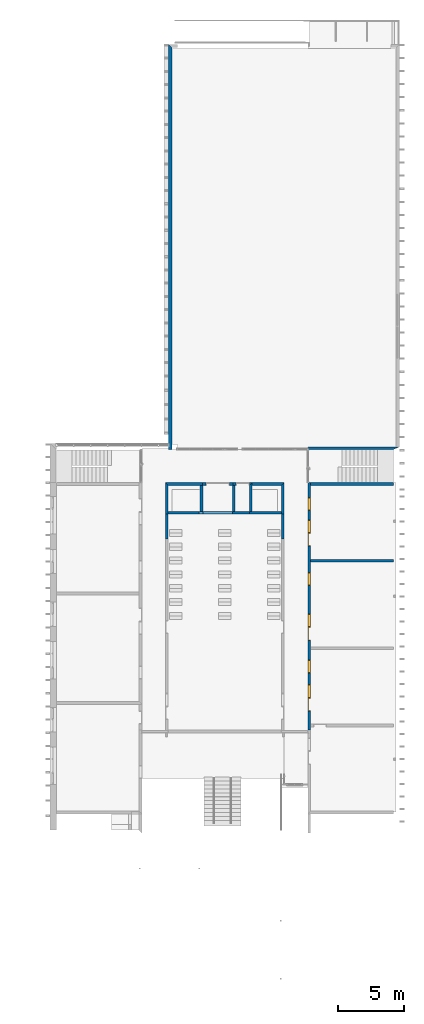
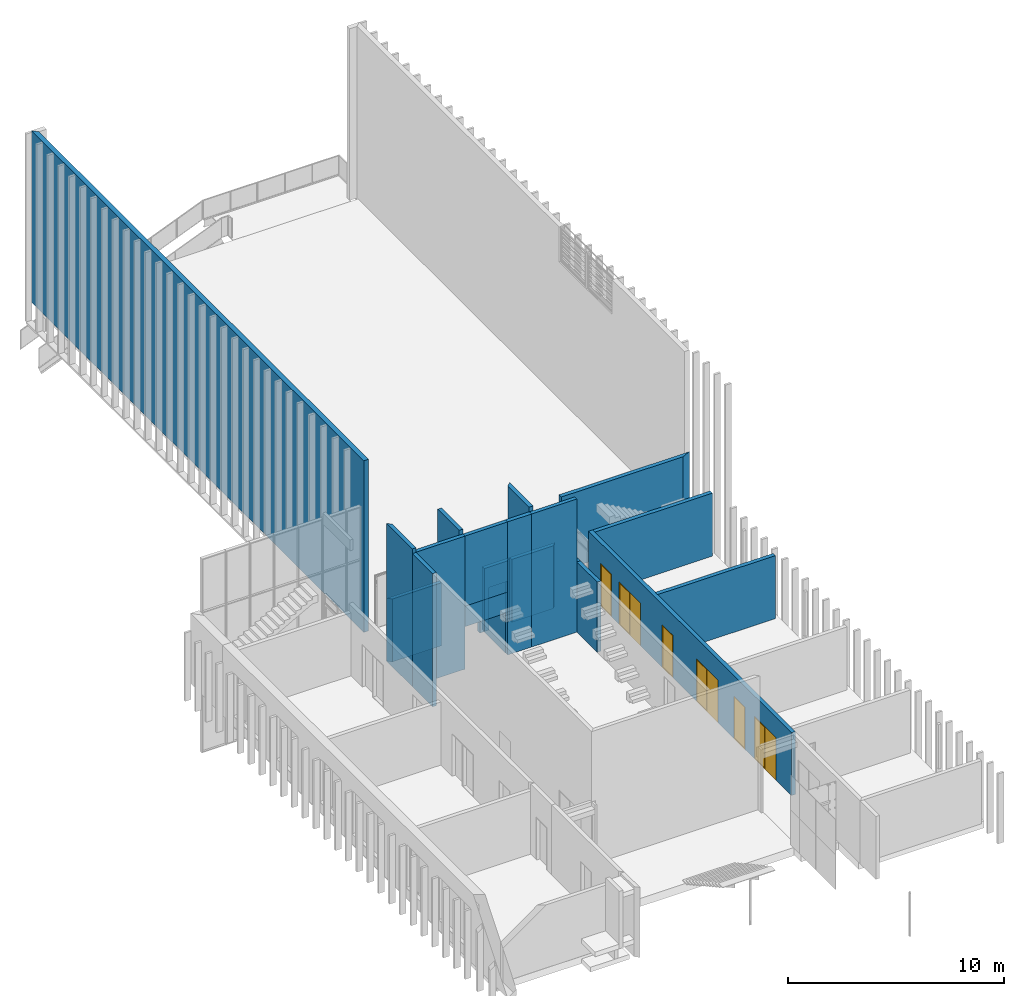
# One storey, part 13 of 62: 21 walls, 6 windows, 3 doors, 11 openings.
"""IFC2X3 building model written with IfcOpenShell, lengths in millimetres."""

from ifc_helpers import new_model, entity, si_unit, converted_unit, derived_unit, money_unit, direction, frame, origin_with_axes, origin_2d_with_axis, place, context, subcontext, project, spatial, polyline, rectangle, outline, extrude, open_shell, faceted_brep, surface_model, source, transform, mapped, material, layer, layer_set, layer_usage, type_object, element, fill, save


model = new_model("IFC2X3")

# Units and contexts
model_context = context("Model", 3, precision=0.01, world=origin_with_axes(), true_north=direction((0.0, 1.0)))
body_context = subcontext(model_context, "Body", "Model", "MODEL_VIEW")
ifc_project = project(units=[si_unit("LENGTHUNIT", "METRE", prefix="MILLI"), si_unit("AREAUNIT", "SQUARE_METRE"), si_unit("VOLUMEUNIT", "CUBIC_METRE"), converted_unit("PLANEANGLEUNIT", "DEGREE", entity("IfcPlaneAngleMeasure", 0.0174532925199), si_unit("PLANEANGLEUNIT", "RADIAN"), dimensions=[0, 0, 0, 0, 0, 0, 0]), si_unit("SOLIDANGLEUNIT", "STERADIAN"), money_unit("EUR"), converted_unit("TIMEUNIT", "Year", entity("IfcTimeMeasure", 31556926.0), si_unit("TIMEUNIT", "SECOND"), dimensions=[0, 0, 1, 0, 0, 0, 0]), si_unit("MASSUNIT", "GRAM", prefix="KILO"), si_unit("THERMODYNAMICTEMPERATUREUNIT", "DEGREE_CELSIUS"), si_unit("LUMINOUSINTENSITYUNIT", "LUMEN"), si_unit("ENERGYUNIT", "JOULE", prefix="MEGA"), derived_unit("THERMALCONDUCTANCEUNIT", [(si_unit("POWERUNIT", "WATT"), 1), (si_unit("LENGTHUNIT", "METRE"), -1), (si_unit("THERMODYNAMICTEMPERATUREUNIT", "KELVIN"), -1)]), derived_unit("SPECIFICHEATCAPACITYUNIT", [(si_unit("ENERGYUNIT", "JOULE"), 1), (si_unit("MASSUNIT", "GRAM", prefix="KILO"), -1), (si_unit("THERMODYNAMICTEMPERATUREUNIT", "KELVIN"), -1)]), derived_unit("MASSDENSITYUNIT", [(si_unit("MASSUNIT", "GRAM", prefix="KILO"), 1), (si_unit("VOLUMEUNIT", "CUBIC_METRE"), -1)])], contexts=[model_context])

# Site, building, storey
site_placement = place(None, origin_with_axes())
site = spatial("IfcSite", under=ifc_project, at=site_placement, Name="Puškini 31, Narva", CompositionType="ELEMENT")
building_placement = place(site_placement, origin_with_axes())
building = spatial("IfcBuilding", under=site, at=building_placement, Name="Narva Riigigümnaasium", CompositionType="ELEMENT")
storey_placement = place(building_placement, frame((0.0, 0.0, 660.0), z_axis=(0.0, 0.0, 1.0), x_axis=(1.0, 0.0, 0.0)))
storey = spatial("IfcBuildingStorey", under=building, at=storey_placement, Name="2.korrus +0.66", CompositionType="ELEMENT", Elevation=660.0)

# Wall
ifc_material_1 = material(Name="Betoon element")
ifc_layer_1 = layer(ifc_material_1, 200.0, ventilated="UNKNOWN")
ifc_layer_set_1 = layer_set([ifc_layer_1], Name="G-SS-01")
ifc_layer_usage_1 = layer_usage(ifc_layer_set_1, "AXIS2", "NEGATIVE", 0.0)
wall_type_1 = type_object("IfcWallType", Name="G-SS-01 200", PredefinedType="NOTDEFINED")
wall_1_placement = place(storey_placement, frame((39229.9999995, 219100.000006, 3555.0), z_axis=(0.0, 0.0, 1.0), x_axis=(1.0, 0.0, 0.0)))
element("IfcWallStandardCase", 1, at=wall_1_placement, inside=storey, type_object=wall_type_1, material=ifc_layer_usage_1, Name="Sisesein", context=body_context, shape_type="SweptSolid", body=[
    extrude(outline(polyline([(0.0, -200.0), (2630.00000047, -200.0), (2630.00000047, 0.0), (0.0, 0.0), (0.0, -200.0)])), origin_with_axes(), (0.0, 0.0, 1.0), 3965.0),
])

# Wall, opening
wall_2_placement = place(storey_placement, frame((41809.9999994, 221279.999999, 0.0), z_axis=(0.0, 0.0, 1.0), x_axis=(1.0, 0.0, 0.0)))
wall_2 = element("IfcWallStandardCase", 2, at=wall_2_placement, inside=storey, type_object=wall_type_1, material=ifc_layer_usage_1, Name="Sisesein", context=body_context, shape_type="SweptSolid", body=[
    extrude(outline(polyline([(1.33582034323e-09, -200.0), (1255.00000065, -200.0), (1470.00000065, 0.0), (0.0, 0.0), (1.33582034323e-09, -200.0)])), origin_with_axes(), (0.0, 0.0, 1.0), 3555.0),
])
opening_1_placement = place(wall_2_placement, frame((752.220678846, -1.00328634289e-08, 0.0), z_axis=(0.0, 0.0, 1.0), x_axis=(1.0, 0.0, 0.0)))
element("IfcOpeningElement", 3, at=opening_1_placement, cuts=wall_2, Name="G-SU-079", context=body_context, shape_type="SweptSolid", body=[
    extrude(rectangle(XDim=1000.0, YDim=2400.0, at=origin_2d_with_axis()), frame((0.0, -200.0, 1200.0), z_axis=(0.0, 1.0, 0.0), x_axis=(1.0, 0.0, 0.0)), (0.0, 0.0, 1.0), 600.0),
])

# Walls
ifc_layer_usage_2 = layer_usage(ifc_layer_set_1, "AXIS2", "POSITIVE", 0.0)
wall_3_placement = place(storey_placement, frame((36699.9999995, 221279.999999, 0.0), z_axis=(0.0, 0.0, 1.0), x_axis=(0.0, -1.0, 0.0)))
element("IfcWallStandardCase", 4, at=wall_3_placement, inside=storey, type_object=wall_type_1, material=ifc_layer_usage_2, Name="Sisesein", context=body_context, shape_type="SweptSolid", body=[
    extrude(outline(polyline([(5.5734972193e-08, 0.0), (2389.99999313, 0.0), (2389.99999313, 200.0), (200.000000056, 200.0), (5.5734972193e-08, 0.0)])), origin_with_axes(), (0.0, 0.0, 1.0), 7785.0),
])
wall_4_placement = place(storey_placement, frame((36699.9999995, 219100.000006, 0.0), z_axis=(0.0, 0.0, 1.0), x_axis=(1.0, 0.0, 0.0)))
element("IfcWallStandardCase", 5, at=wall_4_placement, inside=storey, type_object=wall_type_1, material=ifc_layer_usage_1, Name="Sisesein", context=body_context, shape_type="SweptSolid", body=[
    extrude(outline(polyline([(200.0, -200.0), (2830.0, -200.0), (2830.0, 0.0), (200.0, 0.0), (200.0, -200.0)])), origin_with_axes(), (0.0, 0.0, 1.0), 7520.0),
])
wall_5_placement = place(storey_placement, frame((43080.0000001, 219100.000006, 0.0), z_axis=(0.0, 0.0, 1.0), x_axis=(1.0, 0.0, 0.0)))
element("IfcWallStandardCase", 6, at=wall_5_placement, inside=storey, type_object=wall_type_1, material=ifc_layer_usage_1, Name="Sisesein", context=body_context, shape_type="SweptSolid", body=[
    extrude(outline(polyline([(0.0, -200.0), (2420.0, -200.0), (2420.0, 0.0), (0.0, 0.0), (0.0, -200.0)])), origin_with_axes(), (0.0, 0.0, 1.0), 7520.0),
])
wall_6_placement = place(storey_placement, frame((45700.0000001, 221279.999999, 0.0), z_axis=(0.0, 0.0, 1.0), x_axis=(0.0, -1.0, 0.0)))
element("IfcWallStandardCase", 7, at=wall_6_placement, inside=storey, type_object=wall_type_1, material=ifc_layer_usage_1, Name="Sisesein", context=body_context, shape_type="SweptSolid", body=[
    extrude(outline(polyline([(199.999999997, -200.0), (2379.99999301, -200.0), (2379.99999301, 0.0), (0.0, 0.0), (199.999999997, -200.0)])), origin_with_axes(), (0.0, 0.0, 1.0), 3960.0),
])
wall_7_placement = place(storey_placement, frame((36699.9999995, 221279.999999, 0.0), z_axis=(0.0, 0.0, 1.0), x_axis=(1.0, 0.0, 0.0)))
element("IfcWallStandardCase", 8, at=wall_7_placement, inside=storey, type_object=wall_type_1, material=ifc_layer_usage_1, Name="Sisesein", context=body_context, shape_type="SweptSolid", body=[
    extrude(outline(polyline([(200.0, -200.0), (2820.0, -200.0), (2820.0, 0.0), (0.0, 0.0), (200.0, -200.0)])), origin_with_axes(), (0.0, 0.0, 1.0), 3555.0),
])
wall_8_placement = place(storey_placement, frame((43280.0000001, 221279.999999, 0.0), z_axis=(0.0, 0.0, 1.0), x_axis=(1.0, 0.0, 0.0)))
element("IfcWallStandardCase", 9, at=wall_8_placement, inside=storey, type_object=wall_type_1, material=ifc_layer_usage_1, Name="Sisesein", context=body_context, shape_type="SweptSolid", body=[
    extrude(outline(polyline([(2.98427949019e-09, -200.0), (2220.0, -200.0), (2420.0, 0.0), (0.0, 0.0), (2.98427949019e-09, -200.0)])), origin_with_axes(), (0.0, 0.0, 1.0), 3555.0),
])
wall_9_placement = place(storey_placement, frame((36699.9999995, 218890.000006, 0.0), z_axis=(0.0, 0.0, 1.0), x_axis=(0.0, -1.0, 0.0)))
element("IfcWallStandardCase", 10, at=wall_9_placement, inside=storey, type_object=wall_type_1, material=ifc_layer_usage_2, Name="Sisesein", context=body_context, shape_type="SweptSolid", body=[
    extrude(outline(polyline([(0.0, 0.0), (1871.06762891, 0.0), (1871.06762891, 200.0), (0.0, 200.0), (0.0, 0.0)])), origin_with_axes(), (0.0, 0.0, 1.0), 7520.0),
])
wall_10_placement = place(storey_placement, frame((45700.0000001, 218900.000006, 0.0), z_axis=(0.0, 0.0, 1.0), x_axis=(0.0, -1.0, 0.0)))
element("IfcWallStandardCase", 11, at=wall_10_placement, inside=storey, type_object=wall_type_1, material=ifc_layer_usage_1, Name="Sisesein", context=body_context, shape_type="SweptSolid", body=[
    extrude(outline(polyline([(0.0, -200.0), (1881.06762891, -200.0), (1881.06762891, 0.0), (0.0, 0.0), (0.0, -200.0)])), origin_with_axes(), (0.0, 0.0, 1.0), 3960.0),
])

# Wall, openings, windows, doors
ifc_material_2 = material(Name="siseviimistlus-seinad")
ifc_layer_2 = layer(ifc_material_2, 10.0, ventilated="UNKNOWN")
ifc_layer_set_2 = layer_set([ifc_layer_1, ifc_layer_2], Name="G-SS-01-02")
ifc_layer_usage_3 = layer_usage(ifc_layer_set_2, "AXIS2", "POSITIVE", 0.0)
wall_type_2 = type_object("IfcWallType", Name="G-SS-01-02 210", PredefinedType="NOTDEFINED")
wall_11_placement = place(storey_placement, frame((47499.9999936, 221279.999999, 0.0), z_axis=(0.0, 0.0, 1.0), x_axis=(0.0, -1.0, 0.0)))
wall_11 = element("IfcWallStandardCase", 12, at=wall_11_placement, inside=storey, type_object=wall_type_2, material=ifc_layer_usage_3, Name="Sisesein", context=body_context, shape_type="SweptSolid", body=[
    extrude(outline(polyline([(0.0, 0.0), (18769.9999864, 0.0), (18769.9999864, 210.0), (0.0, 210.0), (0.0, 0.0)])), origin_with_axes(), (0.0, 0.0, 1.0), 3555.0),
])
opening_2_placement = place(wall_11_placement, frame((15830.000007, 0.0, 0.0), z_axis=(0.0, 0.0, 1.0), x_axis=(1.0, 0.0, 0.0)))
opening_2 = element("IfcOpeningElement", 13, at=opening_2_placement, cuts=wall_11, Name="G-SA-1", context=body_context, shape_type="SweptSolid", body=[
    extrude(rectangle(XDim=1000.0, YDim=2400.0, at=origin_2d_with_axis()), frame((0.0, 210.0, 1200.0), z_axis=(0.0, -1.0, 0.0), x_axis=(-1.0, 0.0, 0.0)), (0.0, 0.0, 1.0), 630.0),
])
opening_3_placement = place(wall_11_placement, frame((10460.0000076, 0.0, 0.0), z_axis=(0.0, 0.0, 1.0), x_axis=(1.0, 0.0, 0.0)))
opening_3 = element("IfcOpeningElement", 14, at=opening_3_placement, cuts=wall_11, Name="G-SA-1", context=body_context, shape_type="SweptSolid", body=[
    extrude(rectangle(XDim=1000.0, YDim=2400.0, at=origin_2d_with_axis()), frame((0.0, 210.0, 1200.0), z_axis=(0.0, 1.0, 0.0), x_axis=(1.0, 0.0, 0.0)), (0.0, 0.0, -1.0), 630.0),
])
opening_4_placement = place(wall_11_placement, frame((7304.99999823, 0.0, 0.0), z_axis=(0.0, 0.0, 1.0), x_axis=(1.0, 0.0, 0.0)))
opening_4 = element("IfcOpeningElement", 15, at=opening_4_placement, cuts=wall_11, Name="G-SA-1", context=body_context, shape_type="SweptSolid", body=[
    extrude(rectangle(XDim=1000.0, YDim=2400.0, at=origin_2d_with_axis()), frame((0.0, 210.0, 1200.0), z_axis=(0.0, 1.0, 0.0), x_axis=(1.0, 0.0, 0.0)), (0.0, 0.0, -1.0), 630.0),
])
opening_5_placement = place(wall_11_placement, frame((13954.9999982, 0.0, 0.0), z_axis=(0.0, 0.0, 1.0), x_axis=(1.0, 0.0, 0.0)))
opening_5 = element("IfcOpeningElement", 16, at=opening_5_placement, cuts=wall_11, Name="G-SA-1", context=body_context, shape_type="SweptSolid", body=[
    extrude(rectangle(XDim=1000.0, YDim=2400.0, at=origin_2d_with_axis()), frame((0.0, 210.0, 1200.0), z_axis=(0.0, -1.0, 0.0), x_axis=(-1.0, 0.0, 0.0)), (0.0, 0.0, 1.0), 630.0),
])
opening_6_placement = place(wall_11_placement, frame((1604.99999823, 0.0, 0.0), z_axis=(0.0, 0.0, 1.0), x_axis=(1.0, 0.0, 0.0)))
opening_6 = element("IfcOpeningElement", 17, at=opening_6_placement, cuts=wall_11, Name="G-SA-1", context=body_context, shape_type="SweptSolid", body=[
    extrude(rectangle(XDim=1000.0, YDim=2400.0, at=origin_2d_with_axis()), frame((0.0, 210.0, 1200.0), z_axis=(0.0, -1.0, 0.0), x_axis=(-1.0, 0.0, 0.0)), (0.0, 0.0, 1.0), 630.0),
])
opening_7_placement = place(wall_11_placement, frame((3320.00000068, 0.0, 0.0), z_axis=(0.0, 0.0, 1.0), x_axis=(1.0, 0.0, 0.0)))
opening_7 = element("IfcOpeningElement", 18, at=opening_7_placement, cuts=wall_11, Name="G-SA-1", context=body_context, shape_type="SweptSolid", body=[
    extrude(rectangle(XDim=1000.0, YDim=2400.0, at=origin_2d_with_axis()), frame((0.0, 210.0, 1200.0), z_axis=(0.0, -1.0, 0.0), x_axis=(-1.0, 0.0, 0.0)), (0.0, 0.0, 1.0), 630.0),
])
opening_8_placement = place(wall_11_placement, frame((11460.0000076, 0.0, 0.0), z_axis=(0.0, 0.0, 1.0), x_axis=(1.0, 0.0, 0.0)))
opening_8 = element("IfcOpeningElement", 19, at=opening_8_placement, cuts=wall_11, Name="G-SU-074", context=body_context, shape_type="SweptSolid", body=[
    extrude(rectangle(XDim=1000.0, YDim=2400.0, at=origin_2d_with_axis()), frame((0.0, 210.0, 1200.0), z_axis=(0.0, -1.0, 0.0), x_axis=(-1.0, 0.0, 0.0)), (0.0, 0.0, 1.0), 630.0),
])
opening_9_placement = place(wall_11_placement, frame((16830.000007, 0.0, 0.0), z_axis=(0.0, 0.0, 1.0), x_axis=(1.0, 0.0, 0.0)))
opening_9 = element("IfcOpeningElement", 20, at=opening_9_placement, cuts=wall_11, Name="G-SU-075", context=body_context, shape_type="SweptSolid", body=[
    extrude(rectangle(XDim=1000.0, YDim=2400.0, at=origin_2d_with_axis()), frame((0.0, 210.0, 1200.0), z_axis=(0.0, -1.0, 0.0), x_axis=(-1.0, 0.0, 0.0)), (0.0, 0.0, 1.0), 630.0),
])
opening_10_placement = place(wall_11_placement, frame((4320.00000068, 0.0, 0.0), z_axis=(0.0, 0.0, 1.0), x_axis=(1.0, 0.0, 0.0)))
opening_10 = element("IfcOpeningElement", 21, at=opening_10_placement, cuts=wall_11, Name="G-SU-073", context=body_context, shape_type="SweptSolid", body=[
    extrude(rectangle(XDim=1000.0, YDim=2400.0, at=origin_2d_with_axis()), frame((0.0, 210.0, 1200.0), z_axis=(0.0, -1.0, 0.0), x_axis=(-1.0, 0.0, 0.0)), (0.0, 0.0, 1.0), 630.0),
])
window_style = type_object("IfcWindowStyle", Name="Window 23", ConstructionType="NOTDEFINED", OperationType="SINGLE_PANEL", ParameterTakesPrecedence=False, Sizeable=False)
shared_shape_1 = source(origin_with_axes(), body_context, "Body", "SurfaceModel", [
    faceted_brep([(-460.0, -210.0, 2360.0), (-460.0, 0.0, 2360.0), (-500.0, 0.0, 2360.0), (-500.0, -210.0, 2360.0), (-460.0, -210.0, 40.0), (-460.0, 0.0, 40.0), (-500.0, 0.0, 40.0), (-500.0, -210.0, 40.0)], [[[0, 1, 2, 3]], [[4, 5, 1, 0]], [[1, 5, 6, 2]], [[3, 2, 6, 7]], [[0, 3, 7, 4]], [[7, 6, 5, 4]]]),
    faceted_brep([(460.0, -210.0, 40.0), (460.0, 0.0, 40.0), (500.0, 0.0, 40.0), (500.0, -210.0, 40.0), (460.0, -210.0, 2360.0), (460.0, 0.0, 2360.0), (500.0, 0.0, 2360.0), (500.0, -210.0, 2360.0)], [[[0, 1, 2, 3]], [[4, 5, 1, 0]], [[1, 5, 6, 2]], [[3, 2, 6, 7]], [[0, 3, 7, 4]], [[7, 6, 5, 4]]]),
    faceted_brep([(-460.0, -210.0, 40.0), (-460.0, 0.0, 40.0), (-500.0, 0.0, 40.0), (-500.0, -210.0, 40.0), (460.0, -210.0, 40.0), (460.0, 0.0, 40.0), (500.0, 0.0, 40.0), (500.0, 0.0, 0.0), (-500.0, 0.0, 0.0), (-500.0, -210.0, 0.0), (500.0, -210.0, 0.0), (500.0, -210.0, 40.0)], [[[0, 1, 2, 3]], [[4, 5, 1, 0]], [[1, 5, 6, 7, 8, 2]], [[3, 2, 8, 9]], [[0, 3, 9, 10, 11, 4]], [[11, 6, 5, 4]], [[10, 7, 6, 11]], [[9, 8, 7, 10]]]),
    faceted_brep([(460.0, -210.0, 2360.0), (460.0, 0.0, 2360.0), (500.0, 0.0, 2360.0), (500.0, -210.0, 2360.0), (-460.0, -210.0, 2360.0), (-460.0, 0.0, 2360.0), (-500.0, 0.0, 2360.0), (-500.0, 0.0, 2400.0), (500.0, 0.0, 2400.0), (500.0, -210.0, 2400.0), (-500.0, -210.0, 2400.0), (-500.0, -210.0, 2360.0)], [[[0, 1, 2, 3]], [[4, 5, 1, 0]], [[1, 5, 6, 7, 8, 2]], [[3, 2, 8, 9]], [[0, 3, 9, 10, 11, 4]], [[11, 6, 5, 4]], [[10, 7, 6, 11]], [[9, 8, 7, 10]]]),
    surface_model("IfcShellBasedSurfaceModel", [(-460.0, -35.0, 40.0), (460.0, -35.0, 40.0), (460.0, -35.0, 2360.0), (-460.0, -35.0, 2360.0)], [open_shell([[[0, 1, 2, 3]]])]),
    surface_model("IfcShellBasedSurfaceModel", [(-460.0, -15.0, 40.0), (-460.0, -15.0, 2360.0), (460.0, -15.0, 2360.0), (460.0, -15.0, 40.0)], [open_shell([[[0, 1, 2, 3]]])]),
])
window_1_placement = place(opening_2_placement, frame((500.0, 0.0, 0.0), z_axis=(0.0, 0.0, 1.0), x_axis=(-1.0, 0.0, 0.0)))
window_1 = element("IfcWindow", 22, at=window_1_placement, inside=storey, type_object=window_style, Name="G-SA-1", ObjectType="WINDOW", OverallHeight=2400.0, OverallWidth=1000.0, context=body_context, shape_type="MappedRepresentation", body=[
    mapped(shared_shape_1, transform((500.0, 0.0, 0.0))),
])
fill(opening_2, window_1)
window_2_placement = place(opening_5_placement, frame((500.0, 0.0, 0.0), z_axis=(0.0, 0.0, 1.0), x_axis=(-1.0, 0.0, 0.0)))
window_2 = element("IfcWindow", 23, at=window_2_placement, inside=storey, type_object=window_style, Name="G-SA-1", ObjectType="WINDOW", OverallHeight=2400.0, OverallWidth=1000.0, context=body_context, shape_type="MappedRepresentation", body=[
    mapped(shared_shape_1, transform((500.0, 0.0, 0.0))),
])
fill(opening_5, window_2)
window_3_placement = place(opening_6_placement, frame((500.0, 0.0, 0.0), z_axis=(0.0, 0.0, 1.0), x_axis=(-1.0, 0.0, 0.0)))
window_3 = element("IfcWindow", 24, at=window_3_placement, inside=storey, type_object=window_style, Name="G-SA-1", ObjectType="WINDOW", OverallHeight=2400.0, OverallWidth=1000.0, context=body_context, shape_type="MappedRepresentation", body=[
    mapped(shared_shape_1, transform((500.0, 0.0, 0.0))),
])
fill(opening_6, window_3)
window_4_placement = place(opening_7_placement, frame((500.0, 0.0, 0.0), z_axis=(0.0, 0.0, 1.0), x_axis=(-1.0, 0.0, 0.0)))
window_4 = element("IfcWindow", 25, at=window_4_placement, inside=storey, type_object=window_style, Name="G-SA-1", ObjectType="WINDOW", OverallHeight=2400.0, OverallWidth=1000.0, context=body_context, shape_type="MappedRepresentation", body=[
    mapped(shared_shape_1, transform((500.0, 0.0, 0.0))),
])
fill(opening_7, window_4)
shared_shape_2 = source(origin_with_axes(), body_context, "Body", "SurfaceModel", [
    faceted_brep([(460.0, -210.0, 2360.0), (500.0, -210.0, 2360.0), (500.0, 0.0, 2360.0), (460.0, 0.0, 2360.0), (460.0, -210.0, 40.0), (500.0, -210.0, 40.0), (500.0, 0.0, 40.0), (460.0, 0.0, 40.0)], [[[0, 1, 2, 3]], [[0, 4, 5, 1]], [[1, 5, 6, 2]], [[3, 2, 6, 7]], [[4, 0, 3, 7]], [[5, 4, 7, 6]]]),
    faceted_brep([(-460.0, -210.0, 40.0), (-500.0, -210.0, 40.0), (-500.0, 0.0, 40.0), (-460.0, 0.0, 40.0), (-460.0, -210.0, 2360.0), (-500.0, -210.0, 2360.0), (-500.0, 0.0, 2360.0), (-460.0, 0.0, 2360.0)], [[[0, 1, 2, 3]], [[0, 4, 5, 1]], [[1, 5, 6, 2]], [[3, 2, 6, 7]], [[4, 0, 3, 7]], [[5, 4, 7, 6]]]),
    faceted_brep([(460.0, -210.0, 40.0), (500.0, -210.0, 40.0), (500.0, 0.0, 40.0), (460.0, 0.0, 40.0), (-460.0, -210.0, 40.0), (-500.0, -210.0, 40.0), (-500.0, -210.0, 0.0), (500.0, -210.0, 0.0), (500.0, 0.0, 0.0), (-500.0, 0.0, 0.0), (-500.0, 0.0, 40.0), (-460.0, 0.0, 40.0)], [[[0, 1, 2, 3]], [[0, 4, 5, 6, 7, 1]], [[1, 7, 8, 2]], [[3, 2, 8, 9, 10, 11]], [[4, 0, 3, 11]], [[5, 4, 11, 10]], [[6, 5, 10, 9]], [[7, 6, 9, 8]]]),
    faceted_brep([(-460.0, -210.0, 2360.0), (-500.0, -210.0, 2360.0), (-500.0, 0.0, 2360.0), (-460.0, 0.0, 2360.0), (460.0, -210.0, 2360.0), (500.0, -210.0, 2360.0), (500.0, -210.0, 2400.0), (-500.0, -210.0, 2400.0), (-500.0, 0.0, 2400.0), (500.0, 0.0, 2400.0), (500.0, 0.0, 2360.0), (460.0, 0.0, 2360.0)], [[[0, 1, 2, 3]], [[0, 4, 5, 6, 7, 1]], [[1, 7, 8, 2]], [[3, 2, 8, 9, 10, 11]], [[4, 0, 3, 11]], [[5, 4, 11, 10]], [[6, 5, 10, 9]], [[7, 6, 9, 8]]]),
    surface_model("IfcShellBasedSurfaceModel", [(460.0, -35.0, 40.0), (460.0, -35.0, 2360.0), (-460.0, -35.0, 2360.0), (-460.0, -35.0, 40.0)], [open_shell([[[0, 1, 2, 3]]])]),
    surface_model("IfcShellBasedSurfaceModel", [(460.0, -15.0, 40.0), (-460.0, -15.0, 40.0), (-460.0, -15.0, 2360.0), (460.0, -15.0, 2360.0)], [open_shell([[[0, 1, 2, 3]]])]),
])
window_5_placement = place(opening_3_placement, frame((500.0, 0.0, 0.0), z_axis=(0.0, 0.0, 1.0), x_axis=(-1.0, 0.0, 0.0)))
window_5 = element("IfcWindow", 26, at=window_5_placement, inside=storey, type_object=window_style, Name="G-SA-1", ObjectType="WINDOW", OverallHeight=2400.0, OverallWidth=1000.0, context=body_context, shape_type="MappedRepresentation", body=[
    mapped(shared_shape_2, transform((500.0, 0.0, 0.0))),
])
fill(opening_3, window_5)
window_6_placement = place(opening_4_placement, frame((500.0, 0.0, 0.0), z_axis=(0.0, 0.0, 1.0), x_axis=(-1.0, 0.0, 0.0)))
window_6 = element("IfcWindow", 27, at=window_6_placement, inside=storey, type_object=window_style, Name="G-SA-1", ObjectType="WINDOW", OverallHeight=2400.0, OverallWidth=1000.0, context=body_context, shape_type="MappedRepresentation", body=[
    mapped(shared_shape_2, transform((500.0, 0.0, 0.0))),
])
fill(opening_4, window_6)
door_style = type_object("IfcDoorStyle", Name="Door 23", ConstructionType="NOTDEFINED", OperationType="SINGLE_SWING_RIGHT", ParameterTakesPrecedence=False, Sizeable=False)
shared_shape_3 = source(origin_with_axes(), body_context, "Body", "Brep", [
    faceted_brep([(-500.0, 0.0, 0.0), (-460.0, 0.0, 0.0), (-460.0, -210.0, 0.0), (-500.0, -210.0, 0.0), (-500.0, 0.0, 2360.0), (-460.0, 0.0, 2360.0), (-460.0, -210.0, 2360.0), (-500.0, -210.0, 2360.0)], [[[0, 1, 2, 3]], [[0, 4, 5, 1]], [[1, 5, 6, 2]], [[3, 2, 6, 7]], [[4, 0, 3, 7]], [[5, 4, 7, 6]]]),
    faceted_brep([(500.0, 0.0, 0.0), (500.0, 0.0, 2360.0), (500.0, -210.0, 2360.0), (500.0, -210.0, 0.0), (460.0, 0.0, 0.0), (460.0, 0.0, 2360.0), (460.0, -210.0, 2360.0), (460.0, -210.0, 0.0)], [[[0, 1, 2, 3]], [[0, 4, 5, 1]], [[1, 5, 6, 2]], [[3, 2, 6, 7]], [[4, 0, 3, 7]], [[5, 4, 7, 6]]]),
    faceted_brep([(-500.0, 0.0, 2400.0), (-500.0, 0.0, 2360.0), (-500.0, -210.0, 2360.0), (-500.0, -210.0, 2400.0), (500.0, 0.0, 2400.0), (500.0, 0.0, 2360.0), (460.0, 0.0, 2360.0), (-460.0, 0.0, 2360.0), (-460.0, -210.0, 2360.0), (460.0, -210.0, 2360.0), (500.0, -210.0, 2360.0), (500.0, -210.0, 2400.0)], [[[0, 1, 2, 3]], [[0, 4, 5, 6, 7, 1]], [[1, 7, 8, 2]], [[3, 2, 8, 9, 10, 11]], [[4, 0, 3, 11]], [[5, 4, 11, 10]], [[6, 5, 10, 9]], [[7, 6, 9, 8]]]),
    faceted_brep([(460.0, 0.0, 0.0), (460.0, -40.0, 0.0), (-460.0, -40.0, 0.0), (-460.0, 0.0, 0.0), (460.0, 0.0, 2360.0), (460.0, -40.0, 2360.0), (-460.0, -40.0, 2360.0), (-460.0, 0.0, 2360.0)], [[[0, 1, 2, 3]], [[4, 5, 1, 0]], [[1, 5, 6, 2]], [[3, 2, 6, 7]], [[0, 3, 7, 4]], [[7, 6, 5, 4]]]),
])
door_1_placement = place(opening_8_placement, frame((500.0, 0.0, 0.0), z_axis=(0.0, 0.0, 1.0), x_axis=(-1.0, 0.0, 0.0)))
door_1 = element("IfcDoor", 28, at=door_1_placement, inside=storey, type_object=door_style, Name="G-SU-074", ObjectType="DOOR", OverallHeight=2400.0, OverallWidth=1000.0, context=body_context, shape_type="MappedRepresentation", body=[
    mapped(shared_shape_3, transform((500.0, 0.0, 0.0))),
])
fill(opening_8, door_1)
door_2_placement = place(opening_9_placement, frame((500.0, 0.0, 0.0), z_axis=(0.0, 0.0, 1.0), x_axis=(-1.0, 0.0, 0.0)))
door_2 = element("IfcDoor", 29, at=door_2_placement, inside=storey, type_object=door_style, Name="G-SU-075", ObjectType="DOOR", OverallHeight=2400.0, OverallWidth=1000.0, context=body_context, shape_type="MappedRepresentation", body=[
    mapped(shared_shape_3, transform((500.0, 0.0, 0.0))),
])
fill(opening_9, door_2)
door_3_placement = place(opening_10_placement, frame((500.0, 0.0, 0.0), z_axis=(0.0, 0.0, 1.0), x_axis=(-1.0, 0.0, 0.0)))
door_3 = element("IfcDoor", 30, at=door_3_placement, inside=storey, type_object=door_style, Name="G-SU-073", ObjectType="DOOR", OverallHeight=2400.0, OverallWidth=1000.0, context=body_context, shape_type="MappedRepresentation", body=[
    mapped(shared_shape_3, transform((500.0, 0.0, 0.0))),
])
fill(opening_10, door_3)

# Wall
ifc_layer_usage_4 = layer_usage(ifc_layer_set_2, "AXIS2", "NEGATIVE", 0.0)
wall_12_placement = place(storey_placement, frame((39319.9999995, 219100.000006, 0.0), z_axis=(0.0, 0.0, 1.0), x_axis=(0.0, 1.0, 0.0)))
element("IfcWallStandardCase", 31, at=wall_12_placement, inside=storey, type_object=wall_type_2, material=ifc_layer_usage_4, Name="Sisesein", context=body_context, shape_type="SweptSolid", body=[
    extrude(outline(polyline([(0.0, -210.0), (1979.99999307, -210.0), (1979.99999307, 0.0), (0.0, 0.0), (0.0, -210.0)])), origin_with_axes(), (0.0, 0.0, 1.0), 7785.0),
])

# Wall, opening
wall_13_placement = place(storey_placement, frame((39519.9999995, 221279.999999, 0.0), z_axis=(0.0, 0.0, 1.0), x_axis=(1.0, 0.0, 0.0)))
wall_13 = element("IfcWallStandardCase", 32, at=wall_13_placement, inside=storey, type_object=wall_type_2, material=ifc_layer_usage_4, Name="Sisesein", context=body_context, shape_type="SweptSolid", body=[
    extrude(outline(polyline([(0.0, -210.0), (2289.99999998, -210.0), (2289.99999998, 0.0), (0.0, 0.0), (0.0, -210.0)])), origin_with_axes(), (0.0, 0.0, 1.0), 3555.0),
])
opening_11_placement = place(wall_13_placement, frame((1144.99999848, 0.0, 0.0), z_axis=(0.0, 0.0, 1.0), x_axis=(1.0, 0.0, 0.0)))
element("IfcOpeningElement", 33, at=opening_11_placement, cuts=wall_13, Name="G-SU-078", context=body_context, shape_type="SweptSolid", body=[
    extrude(rectangle(XDim=1800.00000301, YDim=2400.0, at=origin_2d_with_axis()), frame((0.0, -210.0, 1200.0), z_axis=(0.0, 1.0, 0.0), x_axis=(1.0, 0.0, 0.0)), (0.0, 0.0, 1.0), 630.0),
])

# Walls
ifc_layer_usage_5 = layer_usage(ifc_layer_set_2, "AXIS2", "NEGATIVE", 200.0)
wall_14_placement = place(storey_placement, frame((53999.999986, 224000.000006, -220.0), z_axis=(0.0, 0.0, 1.0), x_axis=(-1.0, 0.0, 0.0)))
element("IfcWallStandardCase", 34, at=wall_14_placement, inside=storey, type_object=wall_type_2, material=ifc_layer_usage_5, Name="Sisesein", context=body_context, shape_type="SweptSolid", body=[
    extrude(outline(polyline([(-458.0, -9.99999999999), (6499.99999244, -9.99999999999), (6499.99999244, 200.0), (0.0, 200.0), (-458.0, -9.99999999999)])), origin_with_axes(), (0.0, 0.0, 1.0), 4180.0),
])
wall_15_placement = place(storey_placement, frame((47499.9999936, 221079.999999, 0.0), z_axis=(0.0, 0.0, 1.0), x_axis=(1.0, 0.0, 0.0)))
element("IfcWallStandardCase", 35, at=wall_15_placement, inside=storey, type_object=wall_type_2, material=ifc_layer_usage_5, Name="Sisesein", context=body_context, shape_type="SweptSolid", body=[
    extrude(outline(polyline([(210.0, -9.99999999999), (6489.99999244, -9.99999999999), (6489.99999244, 200.0), (210.0, 200.0), (210.0, -9.99999999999)])), origin_with_axes(), (0.0, 0.0, 1.0), 3560.0),
])
wall_16_placement = place(storey_placement, frame((47699.9999936, 215249.999998, 0.0), z_axis=(0.0, 0.0, 1.0), x_axis=(1.0, 0.0, 0.0)))
element("IfcWallStandardCase", 36, at=wall_16_placement, inside=storey, type_object=wall_type_2, material=ifc_layer_usage_3, Name="Sisesein", context=body_context, shape_type="SweptSolid", body=[
    extrude(outline(polyline([(0.0, 0.0), (6289.99999244, 0.0), (6289.99999244, 210.0), (0.0, 210.0), (0.0, 0.0)])), origin_with_axes(), (0.0, 0.0, 1.0), 3560.0),
])
ifc_layer_3 = layer(ifc_material_2, 15.0, ventilated="UNKNOWN")
ifc_layer_set_3 = layer_set([ifc_layer_1, ifc_layer_3], Name="G-SS-01-03")
ifc_layer_usage_6 = layer_usage(ifc_layer_set_3, "AXIS2", "POSITIVE", 0.0)
wall_type_3 = type_object("IfcWallType", Name="G-SS-01-03 215", PredefinedType="NOTDEFINED")
wall_17_placement = place(storey_placement, frame((43280.0000001, 219099.999999, 0.0), z_axis=(0.0, 0.0, 1.0), x_axis=(0.0, 1.0, 0.0)))
element("IfcWallStandardCase", 37, at=wall_17_placement, inside=storey, type_object=wall_type_3, material=ifc_layer_usage_6, Name="Sisesein", context=body_context, shape_type="SweptSolid", body=[
    extrude(outline(polyline([(6.60355681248e-06, 0.0), (2179.99999965, 0.0), (1979.99999966, 215.0), (6.60355681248e-06, 215.0), (6.60355681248e-06, 0.0)])), origin_with_axes(), (0.0, 0.0, 1.0), 7784.99999952),
])
wall_18_placement = place(storey_placement, frame((41799.8202078, 218900.000006, 0.0), z_axis=(0.0, 0.0, 1.0), x_axis=(1.0, 0.0, 0.0)))
element("IfcWallStandardCase", 38, at=wall_18_placement, inside=storey, type_object=wall_type_3, material=ifc_layer_usage_6, Name="Sisesein", context=body_context, shape_type="SweptSolid", body=[
    extrude(outline(polyline([(0.0, 0.0), (1280.17979231, 0.0), (1280.17979231, 215.0), (0.0, 215.0), (0.0, 0.0)])), origin_with_axes(), (0.0, 0.0, 1.0), 7520.0),
])
wall_19_placement = place(storey_placement, frame((39530.0003462, 218900.000006, 2400.0), z_axis=(0.0, 0.0, 1.0), x_axis=(1.0, 0.0, 0.0)))
element("IfcWallStandardCase", 39, at=wall_19_placement, inside=storey, type_object=wall_type_3, material=ifc_layer_usage_6, Name="Sisesein", context=body_context, shape_type="SweptSolid", body=[
    extrude(outline(polyline([(0.0, 0.0), (2269.81986158, 0.0), (2269.81986158, 215.0), (0.0, 215.0), (0.0, 0.0)])), origin_with_axes(), (0.0, 0.0, 1.0), 1155.0),
])
ifc_material_3 = material(Name="fassaadiplaat")
ifc_layer_4 = layer(ifc_material_3, 8.0, ventilated="UNKNOWN")
ifc_material_4 = material(Name="Salto-roovitus")
ifc_layer_5 = layer(ifc_material_4, 50.0, ventilated="UNKNOWN")
ifc_material_5 = material(Name="Salto-PIR soojustus")
ifc_layer_6 = layer(ifc_material_5, 200.0, ventilated="UNKNOWN")
ifc_layer_set_4 = layer_set([ifc_layer_4, ifc_layer_5, ifc_layer_6], Name="G-VS-03")
ifc_layer_usage_7 = layer_usage(ifc_layer_set_4, "AXIS2", "NEGATIVE", 258.0)
wall_type_4 = type_object("IfcWallType", Name="G-VS-03 258", PredefinedType="NOTDEFINED")
wall_20_placement = place(storey_placement, frame((37200.0, 223800.000006, 0.0), z_axis=(0.0, 0.0, 1.0), x_axis=(0.0, 1.0, 0.0)))
element("IfcWallStandardCase", 40, at=wall_20_placement, inside=storey, type_object=wall_type_4, material=ifc_layer_usage_7, Name="Välissein", context=body_context, shape_type="SweptSolid", body=[
    extrude(outline(polyline([(0.0, 0.0), (30508.8058489, 0.0), (30766.8058489, 258.0), (0.0, 258.0), (0.0, 0.0)])), origin_with_axes(), (0.0, 0.0, 1.0), 9699.50959486),
])
ifc_material_6 = material(Name="kergbetoonplokk")
ifc_layer_7 = layer(ifc_material_6, 150.0, ventilated="UNKNOWN")
ifc_layer_set_5 = layer_set([ifc_layer_3, ifc_layer_7, ifc_layer_3], Name="G-SS-04-03")
ifc_layer_usage_8 = layer_usage(ifc_layer_set_5, "AXIS2", "NEGATIVE", 15.0)
wall_type_5 = type_object("IfcWallType", Name="G-SS-04-03 180", PredefinedType="NOTDEFINED")
wall_21_placement = place(storey_placement, frame((41809.9999994, 218900.000006, 0.0), z_axis=(0.0, 0.0, 1.0), x_axis=(0.0, 1.0, 0.0)))
element("IfcWallStandardCase", 41, at=wall_21_placement, inside=storey, type_object=wall_type_5, material=ifc_layer_usage_8, Name="Sisesein", context=body_context, shape_type="SweptSolid", body=[
    extrude(outline(polyline([(215.0, -165.0), (2179.99999307, -165.0), (2169.99999307, 15.0), (215.0, 15.0), (215.0, -165.0)])), origin_with_axes(), (0.0, 0.0, 1.0), 3555.0),
])

save(model, "model.ifc")
